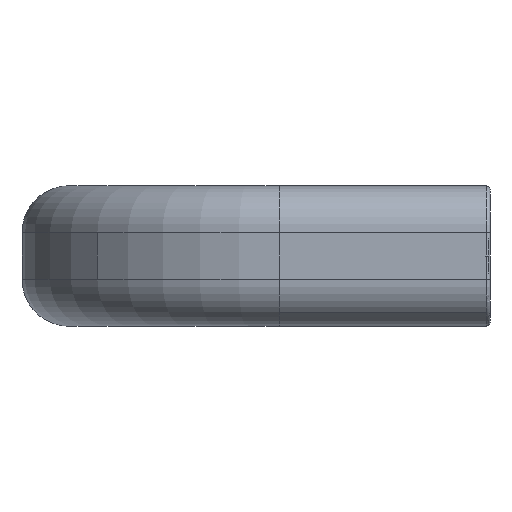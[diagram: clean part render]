
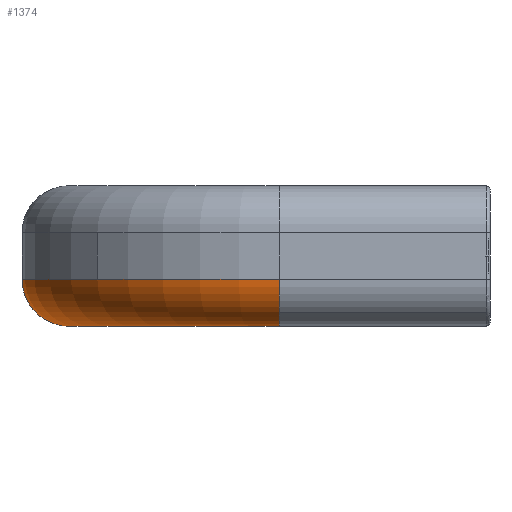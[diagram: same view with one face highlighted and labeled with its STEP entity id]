
A CAD part, left-side view. The second image highlights one B-rep face of the part: STEP entity #1374.
In plain terms, the highlighted toroidal (fillet/blend) face has major radius 18 mm and minor radius 4 mm.
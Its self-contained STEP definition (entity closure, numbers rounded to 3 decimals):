
#523=CARTESIAN_POINT('',(-177.828,18.,-4.828));
#524=VERTEX_POINT('',#523);
#540=CARTESIAN_POINT('',(-179.,18.,-2.));
#541=VERTEX_POINT('',#540);
#548=CARTESIAN_POINT('',(-175.0,18.,-2.));
#549=DIRECTION('',(0.0,1.0,0.0));
#550=DIRECTION('',(0.0,0.0,-1.0));
#551=AXIS2_PLACEMENT_3D('',#548,#549,#550);
#552=CIRCLE('',#551,4.);
#553=EDGE_CURVE('',#524,#541,#552,.T.);
#563=CARTESIAN_POINT('',(-172.172,18.,-4.828));
#564=VERTEX_POINT('',#563);
#572=CARTESIAN_POINT('',(-175.0,18.,-6.));
#573=VERTEX_POINT('',#572);
#580=CARTESIAN_POINT('',(-175.0,18.,-2.));
#581=DIRECTION('',(0.0,1.0,0.0));
#582=DIRECTION('',(0.0,0.0,-1.0));
#583=AXIS2_PLACEMENT_3D('',#580,#581,#582);
#584=CIRCLE('',#583,4.);
#585=EDGE_CURVE('',#564,#573,#584,.T.);
#597=CARTESIAN_POINT('',(-166.899,27.899,-2.0));
#598=VERTEX_POINT('',#597);
#612=CARTESIAN_POINT('',(-171.0,18.,-2.));
#613=VERTEX_POINT('',#612);
#620=CARTESIAN_POINT('',(-157.0,18.,-2.0));
#621=DIRECTION('',(0.0,0.0,-1.0));
#622=DIRECTION('',(-1.0,0.0,0.0));
#623=AXIS2_PLACEMENT_3D('',#620,#621,#622);
#624=CIRCLE('',#623,14.);
#625=EDGE_CURVE('',#613,#598,#624,.T.);
#688=CARTESIAN_POINT('',(-172.556,33.556,-2.));
#689=VERTEX_POINT('',#688);
#698=CARTESIAN_POINT('',(-157.0,18.,-2.));
#699=DIRECTION('',(0.0,0.0,-1.0));
#700=DIRECTION('',(-1.0,0.0,0.0));
#701=AXIS2_PLACEMENT_3D('',#698,#699,#700);
#702=CIRCLE('',#701,22.0);
#703=EDGE_CURVE('',#541,#689,#702,.T.);
#930=CARTESIAN_POINT('',(-157.,36.,-6.));
#931=VERTEX_POINT('',#930);
#945=CARTESIAN_POINT('',(-157.,32.,-2.));
#946=VERTEX_POINT('',#945);
#953=CARTESIAN_POINT('',(-157.,36.,-2.));
#954=DIRECTION('',(1.0,0.0,0.0));
#955=DIRECTION('',(0.0,0.0,-1.0));
#956=AXIS2_PLACEMENT_3D('',#953,#954,#955);
#957=CIRCLE('',#956,4.);
#958=EDGE_CURVE('',#946,#931,#957,.T.);
#1117=CARTESIAN_POINT('',(-157.,40.,-2.));
#1118=VERTEX_POINT('',#1117);
#1164=CARTESIAN_POINT('',(-157.,36.,-2.));
#1165=DIRECTION('',(1.0,0.0,0.0));
#1166=DIRECTION('',(0.0,0.0,-1.0));
#1167=AXIS2_PLACEMENT_3D('',#1164,#1165,#1166);
#1168=CIRCLE('',#1167,4.);
#1169=EDGE_CURVE('',#931,#1118,#1168,.T.);
#1287=CARTESIAN_POINT('',(-157.0,18.,-2.));
#1288=DIRECTION('',(0.0,0.0,-1.0));
#1289=DIRECTION('',(-1.0,0.0,0.0));
#1290=AXIS2_PLACEMENT_3D('',#1287,#1288,#1289);
#1291=CIRCLE('',#1290,22.0);
#1292=EDGE_CURVE('',#689,#1118,#1291,.T.);
#1339=CARTESIAN_POINT('',(-157.0,18.,-2.));
#1340=DIRECTION('',(0.0,0.0,-1.0));
#1341=DIRECTION('',(-1.0,0.0,0.0));
#1342=AXIS2_PLACEMENT_3D('',#1339,#1340,#1341);
#1343=TOROIDAL_SURFACE('',#1342,18.,4.);
#1344=CARTESIAN_POINT('',(-175.0,18.,-2.));
#1345=DIRECTION('',(0.0,1.0,0.0));
#1346=DIRECTION('',(0.0,0.0,-1.0));
#1347=AXIS2_PLACEMENT_3D('',#1344,#1345,#1346);
#1348=CIRCLE('',#1347,4.);
#1349=EDGE_CURVE('',#613,#564,#1348,.T.);
#1350=ORIENTED_EDGE('',*,*,#1349,.T.);
#1351=ORIENTED_EDGE('',*,*,#585,.T.);
#1352=CARTESIAN_POINT('',(-175.0,18.,-2.));
#1353=DIRECTION('',(0.0,1.0,0.0));
#1354=DIRECTION('',(0.0,0.0,-1.0));
#1355=AXIS2_PLACEMENT_3D('',#1352,#1353,#1354);
#1356=CIRCLE('',#1355,4.);
#1357=EDGE_CURVE('',#573,#524,#1356,.T.);
#1358=ORIENTED_EDGE('',*,*,#1357,.T.);
#1359=ORIENTED_EDGE('',*,*,#553,.T.);
#1360=ORIENTED_EDGE('',*,*,#703,.T.);
#1361=ORIENTED_EDGE('',*,*,#1292,.T.);
#1362=ORIENTED_EDGE('',*,*,#1169,.F.);
#1363=ORIENTED_EDGE('',*,*,#958,.F.);
#1364=CARTESIAN_POINT('',(-157.0,18.,-2.0));
#1365=DIRECTION('',(0.0,0.0,-1.0));
#1366=DIRECTION('',(-1.0,0.0,0.0));
#1367=AXIS2_PLACEMENT_3D('',#1364,#1365,#1366);
#1368=CIRCLE('',#1367,14.);
#1369=EDGE_CURVE('',#598,#946,#1368,.T.);
#1370=ORIENTED_EDGE('',*,*,#1369,.F.);
#1371=ORIENTED_EDGE('',*,*,#625,.F.);
#1372=EDGE_LOOP('',(#1350,#1351,#1358,#1359,#1360,#1361,#1362,#1363,#1370,#1371));
#1373=FACE_OUTER_BOUND('',#1372,.T.);
#1374=ADVANCED_FACE('',(#1373),#1343,.T.);
